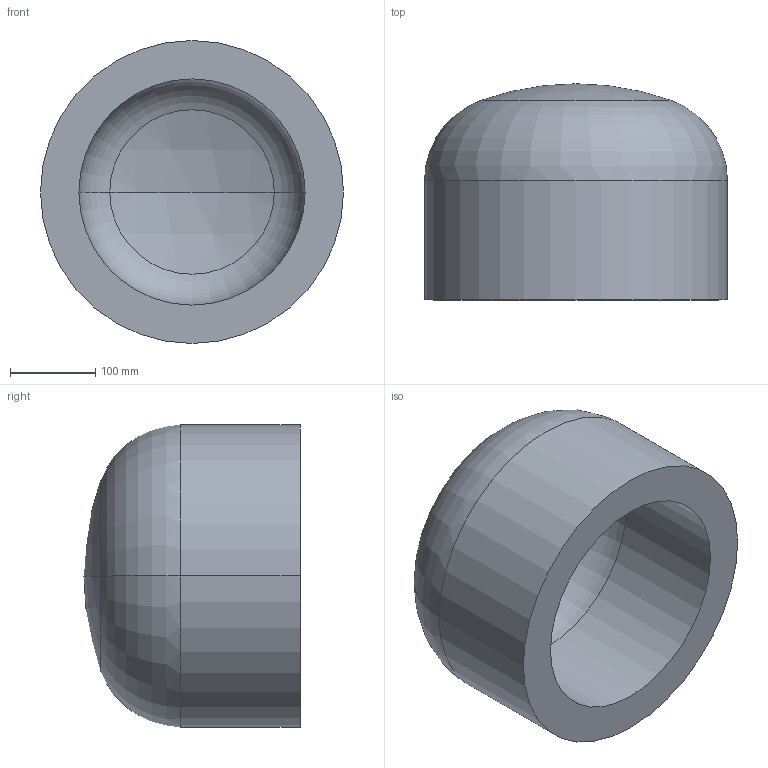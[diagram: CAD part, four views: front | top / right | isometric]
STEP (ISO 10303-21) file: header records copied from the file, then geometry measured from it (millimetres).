
FILE_DESCRIPTION (( 'STEP AP203' ), '1' );
FILE_NAME ('DIN 28013 Korbbogenform_-_Boden DIN 28013 - 355,6 x 140 - I - s=45.step', '2016-07-01T07:48:23', ( '' ), ( '' ), 'SwSTEP 2.0', 'SolidWorks 2013', '' );
FILE_SCHEMA (( 'CONFIG_CONTROL_DESIGN' ));
Length unit declared in the file: millimetre
Products named in the file (1): DIN 28013 Korbbogenform_-_Boden DIN 28013 - 355,6 x 140 - I - s=45
Bounding box: 355.6 x 253.62 x 355.6 mm (x, y, z)
Volume: 11459157.9 mm3; surface area: 557447.1 mm2
Topology: 1 solids, 1 shells, 13 faces, 24 edges, 14 vertices
Faces by surface type: torus 4, cylinder 4, sphere 4, plane 1
Entity records: 407 total; most frequent: DIRECTION 72, CARTESIAN_POINT 52, ORIENTED_EDGE 48, AXIS2_PLACEMENT_3D 34, EDGE_CURVE 24, CIRCLE 20, VERTEX_POINT 14, EDGE_LOOP 14
